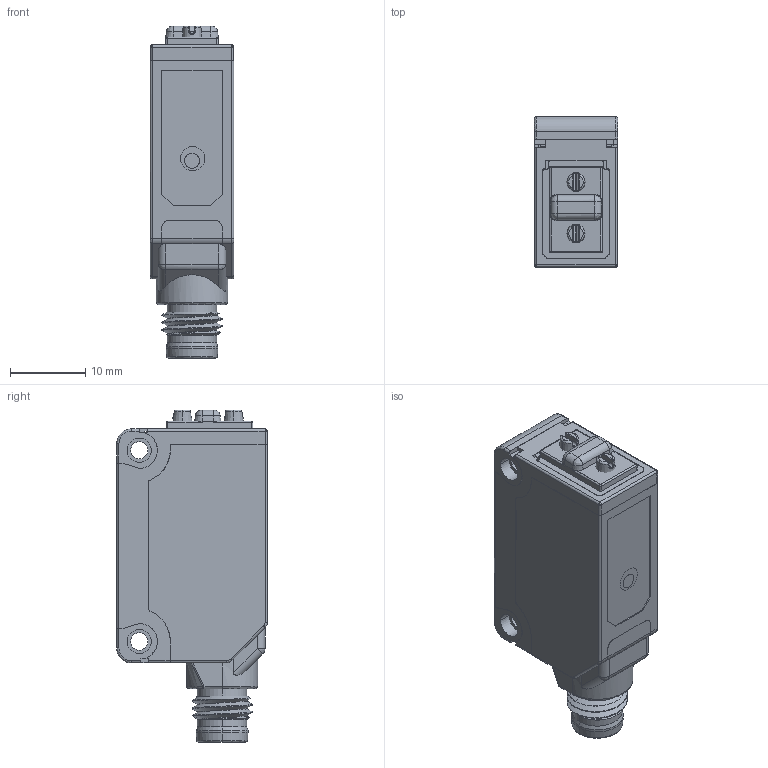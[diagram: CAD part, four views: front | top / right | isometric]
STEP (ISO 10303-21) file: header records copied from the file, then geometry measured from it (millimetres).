
FILE_DESCRIPTION (( 'STEP AP214' ), '1' );
FILE_NAME ('蚾饜极7.STEP', '2025-08-21T11:41:21', ( 'Windows User' ), ( 'P R C' ), 'SwSTEP 2.0', 'SolidWorks 2023', '' );
FILE_SCHEMA (( 'AUTOMOTIVE_DESIGN' ));
Length unit declared in the file: millimetre
Products named in the file (3): 调节杆; 壳体（插接）; 装配体7
Assembly tree (3 placements, depth 2):
  装配体7
    调节杆  x2
    壳体（插接）
Bounding box: 11.1 x 20 x 44.1 mm (x, y, z)
Volume: 4712.7 mm3; surface area: 10523.2 mm2
Topology: 29 solids, 31 shells, 1853 faces, 4951 edges, 3181 vertices
Faces by surface type: plane 1194, cylinder 453, bspline 123, cone 57, torus 16, sphere 10
Entity records: 63194 total; most frequent: CARTESIAN_POINT 19357, ORIENTED_EDGE 9588, DIRECTION 8112, EDGE_CURVE 4794, VECTOR 3438, LINE 3438, VERTEX_POINT 3107, AXIS2_PLACEMENT_3D 2337
